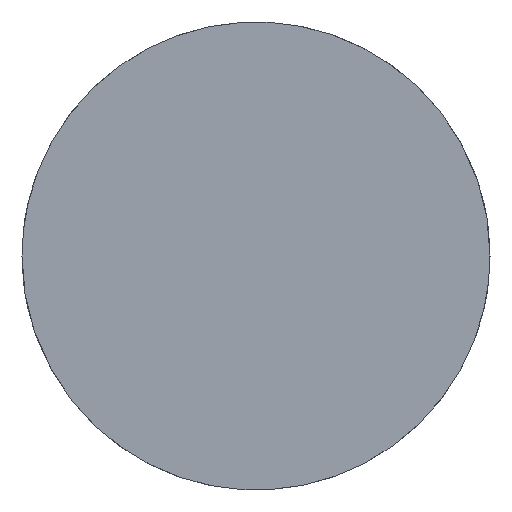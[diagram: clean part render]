
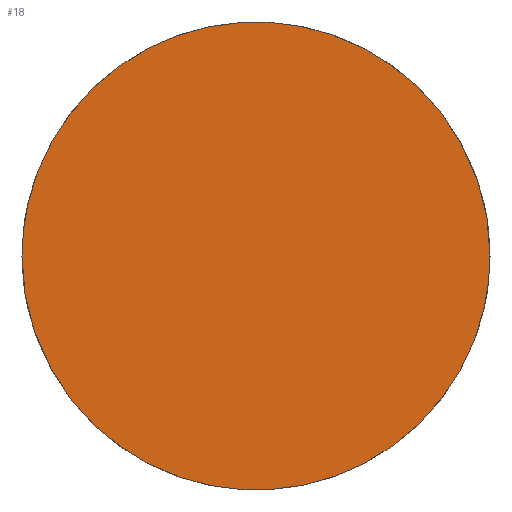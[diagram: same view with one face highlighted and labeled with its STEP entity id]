
A CAD part, left-side view. The second image highlights one B-rep face of the part: STEP entity #18.
In plain terms, the highlighted planar face has unit normal (-1, 0, 0).
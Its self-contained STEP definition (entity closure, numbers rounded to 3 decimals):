
#18=ADVANCED_FACE('',(#24),#80,.T.);
#24=FACE_OUTER_BOUND('',#30,.T.);
#30=EDGE_LOOP('',(#43,#44));
#43=ORIENTED_EDGE('',*,*,#57,.T.);
#44=ORIENTED_EDGE('',*,*,#62,.T.);
#57=EDGE_CURVE('',#75,#78,#67,.T.);
#62=EDGE_CURVE('',#78,#75,#72,.T.);
#67=(
BOUNDED_CURVE()
B_SPLINE_CURVE(2,(#177,#178,#179,#180,#181),.UNSPECIFIED.,.F.,.F.)
B_SPLINE_CURVE_WITH_KNOTS((3,2,3),(-25.133,-18.85,
-12.566),.UNSPECIFIED.)
CURVE()
GEOMETRIC_REPRESENTATION_ITEM()
RATIONAL_B_SPLINE_CURVE((1.,0.707,1.,0.707,1.))
REPRESENTATION_ITEM('')
);
#72=(
BOUNDED_CURVE()
B_SPLINE_CURVE(2,(#196,#197,#198,#199,#200),.UNSPECIFIED.,.F.,.F.)
B_SPLINE_CURVE_WITH_KNOTS((3,2,3),(-12.566,-6.283,
0.),.UNSPECIFIED.)
CURVE()
GEOMETRIC_REPRESENTATION_ITEM()
RATIONAL_B_SPLINE_CURVE((1.,0.707,1.,0.707,1.))
REPRESENTATION_ITEM('')
);
#75=VERTEX_POINT('',#159);
#78=VERTEX_POINT('',#162);
#80=PLANE('',#106);
#106=AXIS2_PLACEMENT_3D('',#136,#111,$);
#111=DIRECTION('',(-1.,0.,0.));
#136=CARTESIAN_POINT('',(-150.,151.365,414.605));
#159=CARTESIAN_POINT('',(-150.,150.365,419.605));
#162=CARTESIAN_POINT('',(-150.,142.365,419.605));
#177=CARTESIAN_POINT('',(-150.,150.365,419.605));
#178=CARTESIAN_POINT('',(-150.,150.365,415.605));
#179=CARTESIAN_POINT('',(-150.,146.365,415.605));
#180=CARTESIAN_POINT('',(-150.,142.365,415.605));
#181=CARTESIAN_POINT('',(-150.,142.365,419.605));
#196=CARTESIAN_POINT('',(-150.,142.365,419.605));
#197=CARTESIAN_POINT('',(-150.,142.365,423.605));
#198=CARTESIAN_POINT('',(-150.,146.365,423.605));
#199=CARTESIAN_POINT('',(-150.,150.365,423.605));
#200=CARTESIAN_POINT('',(-150.,150.365,419.605));
